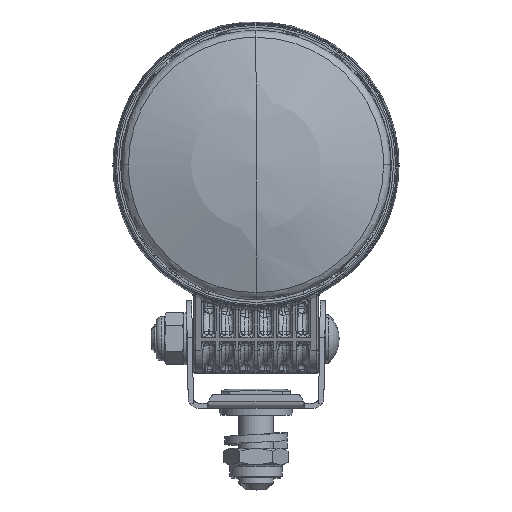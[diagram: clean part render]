
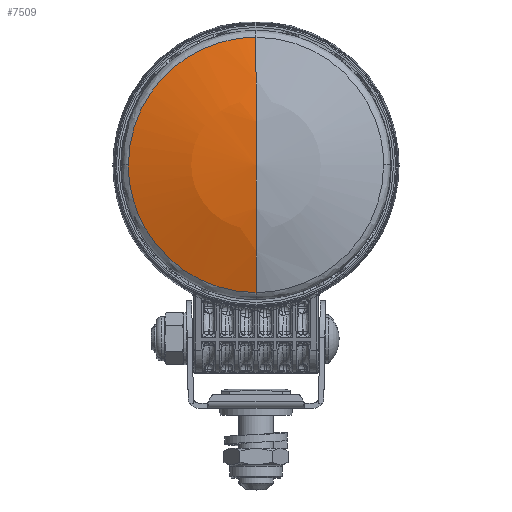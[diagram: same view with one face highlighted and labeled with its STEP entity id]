
A CAD part, top view. The second image highlights one B-rep face of the part: STEP entity #7509.
In plain terms, the highlighted spherical face has radius 110 mm.
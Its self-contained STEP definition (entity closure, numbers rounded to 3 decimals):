
#7437=AXIS2_PLACEMENT_3D('Sphere Axis2P3D',#7434,#7435,#7436) ;
#7493=AXIS2_PLACEMENT_3D('Circle Axis2P3D',#7491,#7492,$) ;
#7500=AXIS2_PLACEMENT_3D('Circle Axis2P3D',#7498,#7499,$) ;
#7434=CARTESIAN_POINT('Axis2P3D Location',(0.,0.,-86.352)) ;
#7440=CARTESIAN_POINT('Control Point',(0.,-36.719,17.338)) ;
#7441=CARTESIAN_POINT('Control Point',(-5.296,-36.719,17.338)) ;
#7442=CARTESIAN_POINT('Control Point',(-10.592,-35.765,17.338)) ;
#7443=CARTESIAN_POINT('Control Point',(-15.657,-33.854,17.338)) ;
#7444=CARTESIAN_POINT('Control Point',(-22.672,-29.623,17.338)) ;
#7445=CARTESIAN_POINT('Control Point',(-28.227,-23.729,17.338)) ;
#7446=CARTESIAN_POINT('Control Point',(-29.938,-21.531,17.338)) ;
#7447=CARTESIAN_POINT('Control Point',(-32.553,-17.423,17.338)) ;
#7448=CARTESIAN_POINT('Control Point',(-34.455,-12.949,17.338)) ;
#7449=CARTESIAN_POINT('Control Point',(-35.134,-10.975,17.338)) ;
#7450=CARTESIAN_POINT('Control Point',(-35.85,-8.286,17.338)) ;
#7451=CARTESIAN_POINT('Control Point',(-36.308,-5.544,17.338)) ;
#7452=CARTESIAN_POINT('Control Point',(-36.407,-4.855,17.338)) ;
#7453=CARTESIAN_POINT('Control Point',(-36.53,-3.819,17.338)) ;
#7454=CARTESIAN_POINT('Control Point',(-36.616,-2.779,17.338)) ;
#7455=CARTESIAN_POINT('Control Point',(-36.641,-2.431,17.338)) ;
#7456=CARTESIAN_POINT('Control Point',(-36.682,-1.737,17.338)) ;
#7457=CARTESIAN_POINT('Control Point',(-36.707,-1.042,17.338)) ;
#7458=CARTESIAN_POINT('Control Point',(-36.715,-0.694,17.338)) ;
#7459=CARTESIAN_POINT('Control Point',(-36.719,-0.347,17.338)) ;
#7460=CARTESIAN_POINT('Control Point',(-36.719,0.,17.338)) ;
#7461=CARTESIAN_POINT('Vertex',(-36.719,0.,17.338)) ;
#7463=CARTESIAN_POINT('Vertex',(0.,-36.719,17.338)) ;
#7467=CARTESIAN_POINT('Control Point',(-36.719,0.,17.338)) ;
#7468=CARTESIAN_POINT('Control Point',(-36.719,0.174,17.338)) ;
#7469=CARTESIAN_POINT('Control Point',(-36.718,0.35,17.338)) ;
#7470=CARTESIAN_POINT('Control Point',(-36.716,0.533,17.338)) ;
#7471=CARTESIAN_POINT('Control Point',(-36.704,1.188,17.338)) ;
#7472=CARTESIAN_POINT('Control Point',(-36.677,1.845,17.338)) ;
#7473=CARTESIAN_POINT('Control Point',(-36.65,2.325,17.338)) ;
#7474=CARTESIAN_POINT('Control Point',(-36.58,3.284,17.338)) ;
#7475=CARTESIAN_POINT('Control Point',(-36.479,4.236,17.338)) ;
#7476=CARTESIAN_POINT('Control Point',(-36.42,4.711,17.338)) ;
#7477=CARTESIAN_POINT('Control Point',(-35.919,8.307,17.338)) ;
#7478=CARTESIAN_POINT('Control Point',(-34.975,11.833,17.338)) ;
#7479=CARTESIAN_POINT('Control Point',(-33.829,14.795,17.338)) ;
#7480=CARTESIAN_POINT('Control Point',(-30.398,21.435,17.338)) ;
#7481=CARTESIAN_POINT('Control Point',(-25.399,27.038,17.338)) ;
#7482=CARTESIAN_POINT('Control Point',(-22.066,29.821,17.338)) ;
#7483=CARTESIAN_POINT('Control Point',(-15.815,33.643,17.338)) ;
#7484=CARTESIAN_POINT('Control Point',(-8.861,35.82,17.338)) ;
#7485=CARTESIAN_POINT('Control Point',(-5.934,36.419,17.338)) ;
#7486=CARTESIAN_POINT('Control Point',(-2.967,36.719,17.338)) ;
#7487=CARTESIAN_POINT('Control Point',(0.,36.719,17.338)) ;
#7488=CARTESIAN_POINT('Vertex',(0.,36.719,17.338)) ;
#7491=CARTESIAN_POINT('Axis2P3D Location',(0.,0.,-86.352)) ;
#7495=CARTESIAN_POINT('Vertex',(0.,0.,23.648)) ;
#7498=CARTESIAN_POINT('Axis2P3D Location',(0.,0.,-86.352)) ;
#7435=DIRECTION('Axis2P3D Direction',(0.,0.,1.)) ;
#7436=DIRECTION('Axis2P3D XDirection',(0.,1.,0.)) ;
#7492=DIRECTION('Axis2P3D Direction',(1.,0.,0.)) ;
#7499=DIRECTION('Axis2P3D Direction',(-1.,0.,0.)) ;
#7504=ORIENTED_EDGE('',*,*,#7465,.F.) ;
#7505=ORIENTED_EDGE('',*,*,#7490,.F.) ;
#7506=ORIENTED_EDGE('',*,*,#7497,.T.) ;
#7507=ORIENTED_EDGE('',*,*,#7502,.F.) ;
#7509=ADVANCED_FACE('Surface.9',(#7508),#7438,.F.) ;
#7439=B_SPLINE_CURVE_WITH_KNOTS('',5,(#7440,#7441,#7442,#7443,#7444,#7445,#7446,#7447,#7448,#7449,#7450,#7451,#7452,#7453,#7454,#7455,#7456,#7457,#7458,#7459,#7460),.UNSPECIFIED.,.F.,.U.,(6,3,3,3,3,3,6),(284.668,378.117,426.977,463.689,475.925,482.044,488.16),.UNSPECIFIED.) ;
#7466=B_SPLINE_CURVE_WITH_KNOTS('',5,(#7467,#7468,#7469,#7470,#7471,#7472,#7473,#7474,#7475,#7476,#7477,#7478,#7479,#7480,#7481,#7482,#7483,#7484,#7485,#7486,#7487),.UNSPECIFIED.,.F.,.U.,(6,3,3,3,3,3,6),(99.22,102.298,110.741,119.184,174.79,250.359,302.71),.UNSPECIFIED.) ;
#7494=CIRCLE('generated circle',#7493,110.) ;
#7501=CIRCLE('generated circle',#7500,110.) ;
#7465=EDGE_CURVE('',#7462,#7464,#7439,.F.) ;
#7490=EDGE_CURVE('',#7489,#7462,#7466,.F.) ;
#7497=EDGE_CURVE('',#7489,#7496,#7494,.T.) ;
#7502=EDGE_CURVE('',#7464,#7496,#7501,.T.) ;
#7503=EDGE_LOOP('',(#7504,#7505,#7506,#7507)) ;
#7508=FACE_OUTER_BOUND('',#7503,.T.) ;
#7438=SPHERICAL_SURFACE('',#7437,110.) ;
#7462=VERTEX_POINT('',#7461) ;
#7464=VERTEX_POINT('',#7463) ;
#7489=VERTEX_POINT('',#7488) ;
#7496=VERTEX_POINT('',#7495) ;
